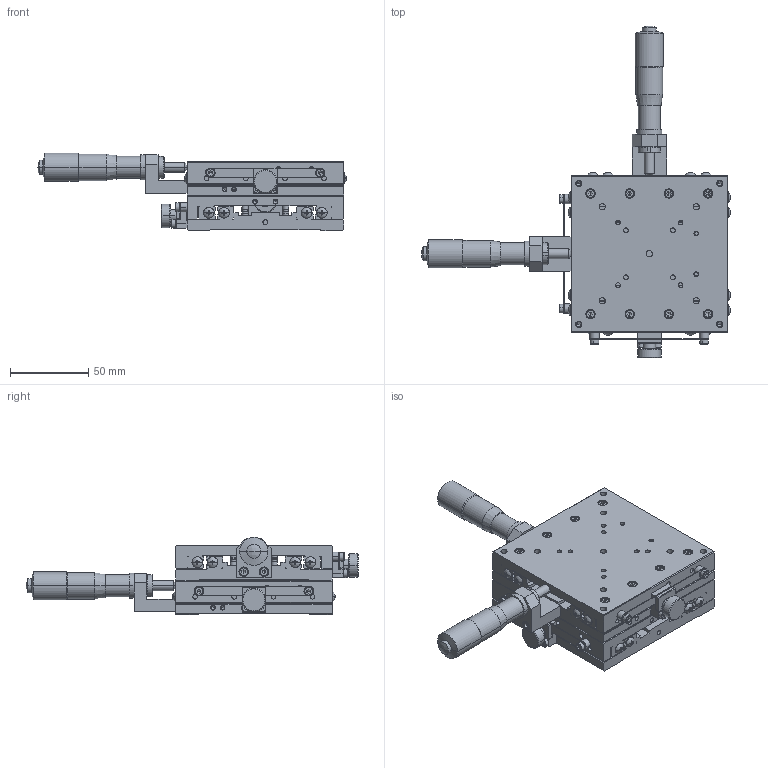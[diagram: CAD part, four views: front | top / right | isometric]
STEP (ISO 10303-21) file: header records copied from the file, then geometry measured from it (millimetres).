
FILE_DESCRIPTION (( 'STEP AP214' ), '1' );
FILE_NAME ('YM10A-C1.STEP', '2009-05-11T08:10:54', ( ' ' ), ( ' ' ), 'SwSTEP 2.0', 'SolidWorks 2008', '' );
FILE_SCHEMA (( 'AUTOMOTIVE_DESIGN' ));
Length unit declared in the file: millimetre
Products named in the file (10): YM10A-C1; XM10A-C1(PL); 001130-1011(3D)-Part-1; 001130-1011(3D); 001130-1022(3D)-1; 001130-1011(3D)-Part-2; 001130-1011(3D)-1; XM10A-C1(PL)-1; 001130-1011(3D)-Part-1-1; 001130-1011(3D)-Part-2-1
Assembly tree (9 placements, depth 4):
  YM10A-C1
    XM10A-C1(PL)-1
      001130-1011(3D)-1
        001130-1011(3D)-Part-2-1
        001130-1011(3D)-Part-1-1
    XM10A-C1(PL)
      001130-1022(3D)-1
      001130-1011(3D)
        001130-1011(3D)-Part-2
        001130-1011(3D)-Part-1
Bounding box: 197.37 x 212 x 49.5 mm (x, y, z)
Volume: 413725.7 mm3; surface area: 163293.1 mm2
Topology: 5 solids, 105 shells, 3530 faces, 8220 edges, 4898 vertices
Faces by surface type: plane 1604, cylinder 1096, cone 758, sphere 40, torus 32
Entity records: 99411 total; most frequent: DIRECTION 18560, CARTESIAN_POINT 16984, ORIENTED_EDGE 16008, EDGE_CURVE 8004, AXIS2_PLACEMENT_3D 7122, VERTEX_POINT 4898, VECTOR 4316, LINE 4316
